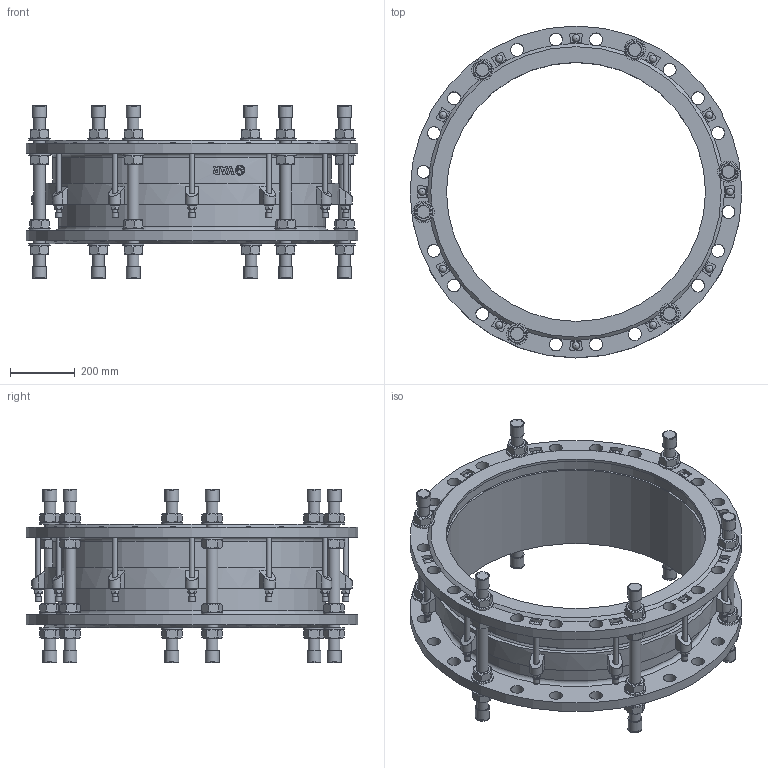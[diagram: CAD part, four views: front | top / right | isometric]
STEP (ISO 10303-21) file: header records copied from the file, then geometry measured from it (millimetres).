
FILE_DESCRIPTION(('STEP AP242'), '1');
FILE_NAME('Ìîíòàæíàÿ âñòàâêà', '', ('UNSPECIFIED'), ('UNSPECIFIED'), 'C3D Converter', 'C3D Toolkit', '');
FILE_SCHEMA(('AP242_MANAGED_MODEL_BASED_3D_ENGINEERING_MIM_LF { 1 0 10303 442 1 1 4 }'));
Length unit declared in the file: millimetre
Products named in the file (13): ШМ.М16.310
Assembly tree (118 placements, depth 2):
  (unnamed)
    (unnamed)
    (unnamed)
    (unnamed)
    (unnamed)  x24
    (unnamed)  x24
    ШМ.М16.310  x6
    (unnamed)  x12
    (unnamed)
    (unnamed)  x12
    (unnamed)  x12
    (unnamed)  x12
    (unnamed)  x12
Bounding box: 1025 x 1025 x 537.2 mm (x, y, z)
Volume: 43198215.8 mm3; surface area: 5757567.2 mm2
Topology: 118 solids, 118 shells, 1317 faces, 2987 edges, 1897 vertices
Faces by surface type: plane 778, cylinder 316, cone 174, torus 26, sphere 12, extrusion 11
Full cylindrical faces by diameter (mm): 16 x36, 17 x12, 18 x12, 19.2 x12, 30 x12, 30.201 x1, 36 x42, 37 x24, 40 x48, 43.2 x12, 66 x24, 800 x2, 824 x2, 836 x2, 860 x1, 884 x1, 886 x1, 910 x1, 1025 x2
Entity records: 27734 total; most frequent: CARTESIAN_POINT 13154, DIRECTION 2428, ORIENTED_EDGE 2206, EDGE_CURVE 1103, AXIS2_PLACEMENT_3D 965, VERTEX_POINT 796, EDGE_LOOP 663, FACE_BOUND 509
